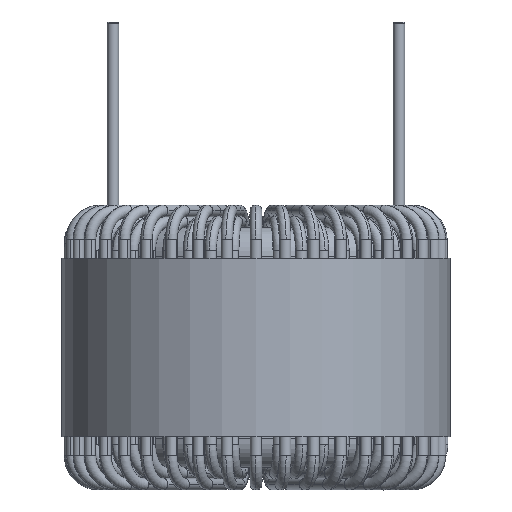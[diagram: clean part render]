
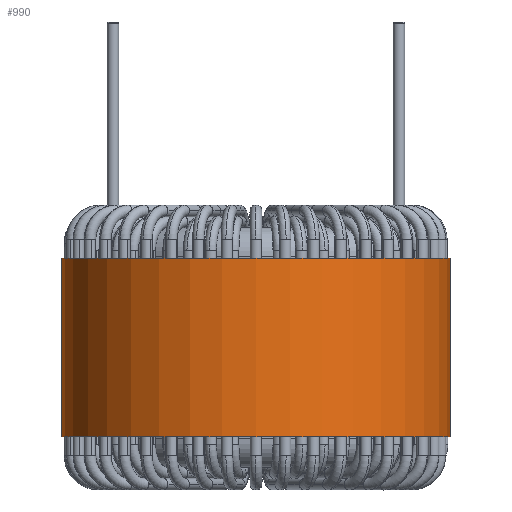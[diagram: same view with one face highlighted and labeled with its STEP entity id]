
A CAD part, front view. The second image highlights one B-rep face of the part: STEP entity #990.
In plain terms, the highlighted cylindrical face has radius 13.58 mm (diameter 27.16 mm), a partial arc.
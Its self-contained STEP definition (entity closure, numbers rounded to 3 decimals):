
#990 = ADVANCED_FACE ( 'NONE', ( #60253 ), #21957, .T. ) ;
#3107 = VERTEX_POINT ( 'NONE', #51107 ) ;
#6890 = CARTESIAN_POINT ( 'NONE',  ( 0., 0., 6.25 ) ) ;
#9446 = EDGE_LOOP ( 'NONE', ( #51530, #67912, #14068, #19090 ) ) ;
#10798 = DIRECTION ( 'NONE',  ( 0., 0., -1. ) ) ;
#11790 = CARTESIAN_POINT ( 'NONE',  ( 13.58, 0., 6.25 ) ) ;
#12814 = DIRECTION ( 'NONE',  ( 0., 0., -1. ) ) ;
#14068 = ORIENTED_EDGE ( 'NONE', *, *, #39579, .T. ) ;
#15512 = DIRECTION ( 'NONE',  ( 0., 0., -1. ) ) ;
#19090 = ORIENTED_EDGE ( 'NONE', *, *, #29820, .T. ) ;
#20468 = EDGE_CURVE ( 'NONE', #33756, #45292, #38553, .T. ) ;
#21957 = CYLINDRICAL_SURFACE ( 'NONE', #42690, 13.58 ) ;
#28088 = EDGE_CURVE ( 'NONE', #3107, #33756, #33150, .T. ) ;
#29820 = EDGE_CURVE ( 'NONE', #52320, #45292, #30217, .T. ) ;
#30217 = CIRCLE ( 'NONE', #35005, 13.58 ) ;
#30730 = VECTOR ( 'NONE', #10798, 1000. ) ;
#30882 = DIRECTION ( 'NONE',  ( 0., 0., 1. ) ) ;
#31406 = CARTESIAN_POINT ( 'NONE',  ( 0., 0., 6.25 ) ) ;
#33150 = CIRCLE ( 'NONE', #37683, 13.58 ) ;
#33756 = VERTEX_POINT ( 'NONE', #11790 ) ;
#35005 = AXIS2_PLACEMENT_3D ( 'NONE', #41378, #30882, #47184 ) ;
#36523 = LINE ( 'NONE', #68718, #51310 ) ;
#37015 = DIRECTION ( 'NONE',  ( 0., 0., 1. ) ) ;
#37683 = AXIS2_PLACEMENT_3D ( 'NONE', #31406, #37015, #42383 ) ;
#38553 = LINE ( 'NONE', #44321, #30730 ) ;
#39579 = EDGE_CURVE ( 'NONE', #3107, #52320, #36523, .T. ) ;
#41378 = CARTESIAN_POINT ( 'NONE',  ( 0., 0., -6.25 ) ) ;
#42016 = CARTESIAN_POINT ( 'NONE',  ( -13.58, 0., -6.25 ) ) ;
#42383 = DIRECTION ( 'NONE',  ( 1., 0., 0. ) ) ;
#42690 = AXIS2_PLACEMENT_3D ( 'NONE', #6890, #15512, #62465 ) ;
#44321 = CARTESIAN_POINT ( 'NONE',  ( 13.58, 0., 6.25 ) ) ;
#45292 = VERTEX_POINT ( 'NONE', #66561 ) ;
#47184 = DIRECTION ( 'NONE',  ( 1., 0., 0. ) ) ;
#51107 = CARTESIAN_POINT ( 'NONE',  ( -13.58, 0., 6.25 ) ) ;
#51310 = VECTOR ( 'NONE', #12814, 1000. ) ;
#51530 = ORIENTED_EDGE ( 'NONE', *, *, #20468, .F. ) ;
#52320 = VERTEX_POINT ( 'NONE', #42016 ) ;
#60253 = FACE_OUTER_BOUND ( 'NONE', #9446, .T. ) ;
#62465 = DIRECTION ( 'NONE',  ( -1., 0., 0. ) ) ;
#66561 = CARTESIAN_POINT ( 'NONE',  ( 13.58, 0., -6.25 ) ) ;
#67912 = ORIENTED_EDGE ( 'NONE', *, *, #28088, .F. ) ;
#68718 = CARTESIAN_POINT ( 'NONE',  ( -13.58, 0., 6.25 ) ) ;
